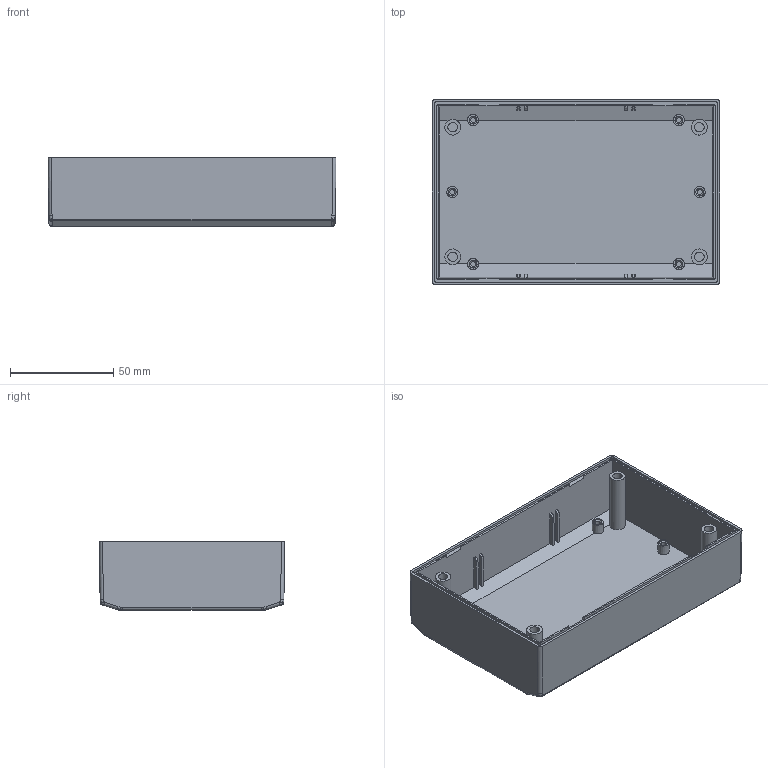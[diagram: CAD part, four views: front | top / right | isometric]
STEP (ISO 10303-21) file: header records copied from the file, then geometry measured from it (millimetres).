
FILE_DESCRIPTION((''),'2;1');
FILE_NAME('E:\Eng\Customer Service\Drawings\1597\STEP\1597X - Box.stp','2010-10-29T09:41:00',('tcook'),(''),'Autodesk Inventor 2011','Autodesk Inventor 2011','');
FILE_SCHEMA(('AUTOMOTIVE_DESIGN { 1 0 10303 214 1 1 1 1 }'));
Length unit declared in the file: inch
Products named in the file (1): 1597X - Box
Bounding box: 139.7 x 89.92 x 33.4 mm (x, y, z)
Volume: 83242.7 mm3; surface area: 58277.3 mm2
Topology: 1 solids, 1 shells, 204 faces, 526 edges, 338 vertices
Faces by surface type: plane 92, cylinder 52, bspline 48, cone 12
Full cylindrical faces by diameter (mm): 2.54 x6, 4.623 x4, 7.62 x4
Entity records: 8240 total; most frequent: CARTESIAN_POINT 3597, ORIENTED_EDGE 984, DIRECTION 864, EDGE_CURVE 492, VERTEX_POINT 330, AXIS2_PLACEMENT_3D 311, EDGE_LOOP 244, VECTOR 242
